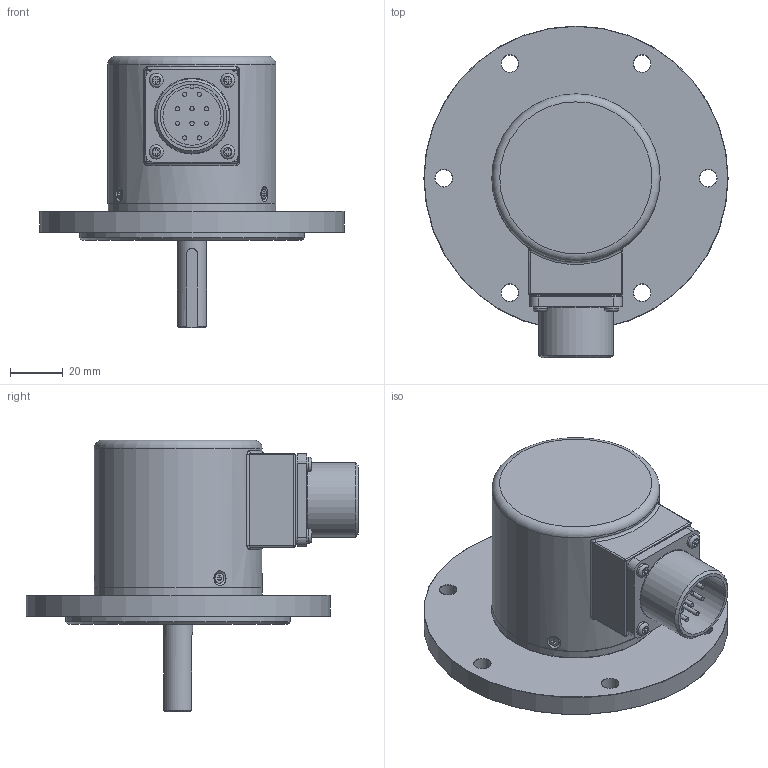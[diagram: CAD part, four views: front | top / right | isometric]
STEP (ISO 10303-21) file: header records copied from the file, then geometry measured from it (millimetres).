
FILE_DESCRIPTION(('FreeCAD Model'),'2;1');
FILE_NAME('Open CASCADE Shape Model','2026-08-04T09:20:39',(''),(''), 'Open CASCADE STEP processor 7.8','FreeCAD','Unknown');
FILE_SCHEMA(('AUTOMOTIVE_DESIGN { 1 0 10303 214 1 1 1 1 }'));
Length unit declared in the file: millimetre
Products named in the file (10): Assembly; 740 Series Bearing; 11mm Dia Shaft with Keyway for 744; Disc Hub; 744 REO Body; Black Lid Side 10 Pin Connector; 10 Pin MS Gasket; 10 Pin Male MS Connector; Connector Screw; 725 Lid Screw
Assembly tree (15 placements, depth 2):
  Assembly
    740 Series Bearing  x2
    11mm Dia Shaft with Keyway for 744
    Disc Hub
    744 REO Body
    Black Lid Side 10 Pin Connector
    10 Pin MS Gasket
    10 Pin Male MS Connector
    Connector Screw  x4
    725 Lid Screw  x3
Bounding box: 115 x 125.5 x 102.61 mm (x, y, z)
Volume: 205468.6 mm3; surface area: 80206.6 mm2
Topology: 15 solids, 15 shells, 971 faces, 2544 edges, 1646 vertices
Faces by surface type: bspline 541, plane 188, cylinder 146, torus 56, cone 36, sphere 4
Full cylindrical faces by diameter (mm): 1.45 x5, 1.6 x10, 1.85 x6, 2.1 x6, 2.35 x2, 2.5 x7, 2.7 x4, 2.85 x4, 3 x3, 3.2 x4, 3.5 x4, 3.8 x3, 5.4 x4, 6.5 x6, 7.87 x1, 9.525 x2, 11 x1, 12 x4, 15 x1, 16.45 x1, 16.5 x4, 22 x1, 23.8 x4, 24 x1, 25 x2, 26 x1, 26.6 x1, 28 x4, 28.3 x1, 54.86 x1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
Entity records: 83168 total; most frequent: CARTESIAN_POINT 66271, ORIENTED_EDGE 4526, EDGE_CURVE 2263, B_SPLINE_CURVE_WITH_KNOTS 1658, DIRECTION 1564, VERTEX_POINT 1478, FACE_BOUND 959, EDGE_LOOP 959
